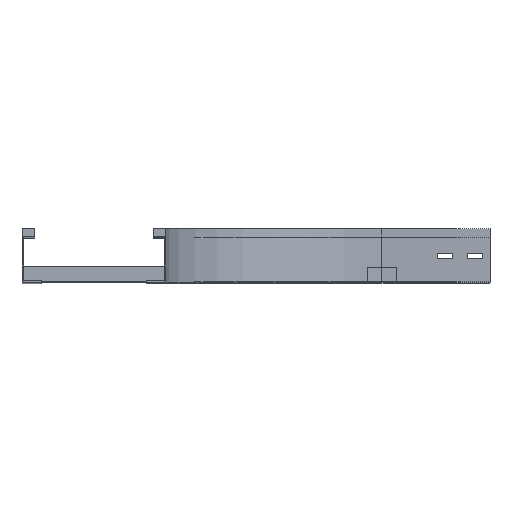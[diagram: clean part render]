
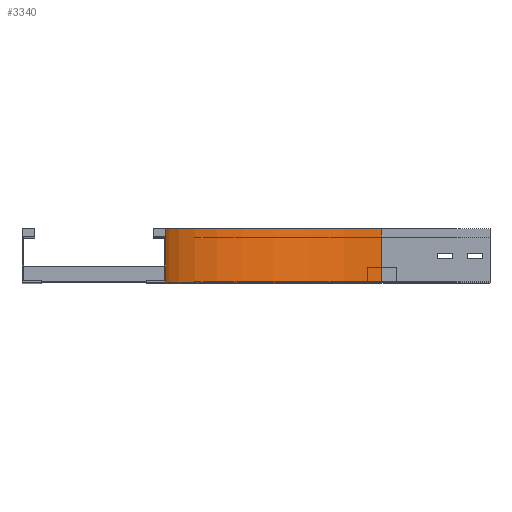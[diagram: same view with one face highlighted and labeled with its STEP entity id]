
A CAD part, top view. The second image highlights one B-rep face of the part: STEP entity #3340.
In plain terms, the highlighted cylindrical face has radius 300 mm (diameter 600 mm), a partial arc.
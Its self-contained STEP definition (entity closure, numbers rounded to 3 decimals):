
#66 = AXIS2_PLACEMENT_3D ( 'NONE', #1113, #3761, #798 ) ;
#222 = DIRECTION ( 'NONE',  ( 0., -1., 0. ) ) ;
#285 = LINE ( 'NONE', #3601, #2451 ) ;
#444 = EDGE_CURVE ( 'NONE', #3533, #2337, #2360, .T. ) ;
#477 = DIRECTION ( 'NONE',  ( 0., -1., 0. ) ) ;
#495 = CIRCLE ( 'NONE', #3427, 300. ) ;
#556 = CARTESIAN_POINT ( 'NONE',  ( 0., 75., -150. ) ) ;
#732 = CARTESIAN_POINT ( 'NONE',  ( 300., 75., -450. ) ) ;
#798 = DIRECTION ( 'NONE',  ( 0., 0., -1. ) ) ;
#829 = AXIS2_PLACEMENT_3D ( 'NONE', #2901, #222, #3851 ) ;
#1113 = CARTESIAN_POINT ( 'NONE',  ( 300., 0., -150. ) ) ;
#1431 = EDGE_LOOP ( 'NONE', ( #2894, #3005, #2556, #2468 ) ) ;
#1435 = VERTEX_POINT ( 'NONE', #556 ) ;
#1479 = DIRECTION ( 'NONE',  ( 0., 1., 0. ) ) ;
#1927 = CARTESIAN_POINT ( 'NONE',  ( 0., 0., -150. ) ) ;
#2072 = DIRECTION ( 'NONE',  ( 0., 1., 0. ) ) ;
#2207 = CARTESIAN_POINT ( 'NONE',  ( 300., 0., -150. ) ) ;
#2337 = VERTEX_POINT ( 'NONE', #732 ) ;
#2360 = LINE ( 'NONE', #3545, #3581 ) ;
#2451 = VECTOR ( 'NONE', #1479, 1000. ) ;
#2468 = ORIENTED_EDGE ( 'NONE', *, *, #444, .T. ) ;
#2556 = ORIENTED_EDGE ( 'NONE', *, *, #3223, .T. ) ;
#2573 = EDGE_CURVE ( 'NONE', #1435, #2337, #2704, .T. ) ;
#2643 = EDGE_CURVE ( 'NONE', #3708, #1435, #285, .T. ) ;
#2704 = CIRCLE ( 'NONE', #829, 300. ) ;
#2808 = DIRECTION ( 'NONE',  ( -1., 0., 0. ) ) ;
#2894 = ORIENTED_EDGE ( 'NONE', *, *, #2573, .F. ) ;
#2901 = CARTESIAN_POINT ( 'NONE',  ( 300., 75., -150. ) ) ;
#3005 = ORIENTED_EDGE ( 'NONE', *, *, #2643, .F. ) ;
#3223 = EDGE_CURVE ( 'NONE', #3708, #3533, #495, .T. ) ;
#3238 = FACE_OUTER_BOUND ( 'NONE', #1431, .T. ) ;
#3338 = CARTESIAN_POINT ( 'NONE',  ( 300., 0., -450. ) ) ;
#3340 = ADVANCED_FACE ( 'NONE', ( #3238 ), #3484, .F. ) ;
#3427 = AXIS2_PLACEMENT_3D ( 'NONE', #2207, #477, #2808 ) ;
#3484 = CYLINDRICAL_SURFACE ( 'NONE', #66, 300. ) ;
#3533 = VERTEX_POINT ( 'NONE', #3338 ) ;
#3545 = CARTESIAN_POINT ( 'NONE',  ( 300., 0., -450. ) ) ;
#3581 = VECTOR ( 'NONE', #2072, 1000. ) ;
#3601 = CARTESIAN_POINT ( 'NONE',  ( 0., 0., -150. ) ) ;
#3708 = VERTEX_POINT ( 'NONE', #1927 ) ;
#3761 = DIRECTION ( 'NONE',  ( 0., -1., 0. ) ) ;
#3851 = DIRECTION ( 'NONE',  ( -1., 0., 0. ) ) ;
